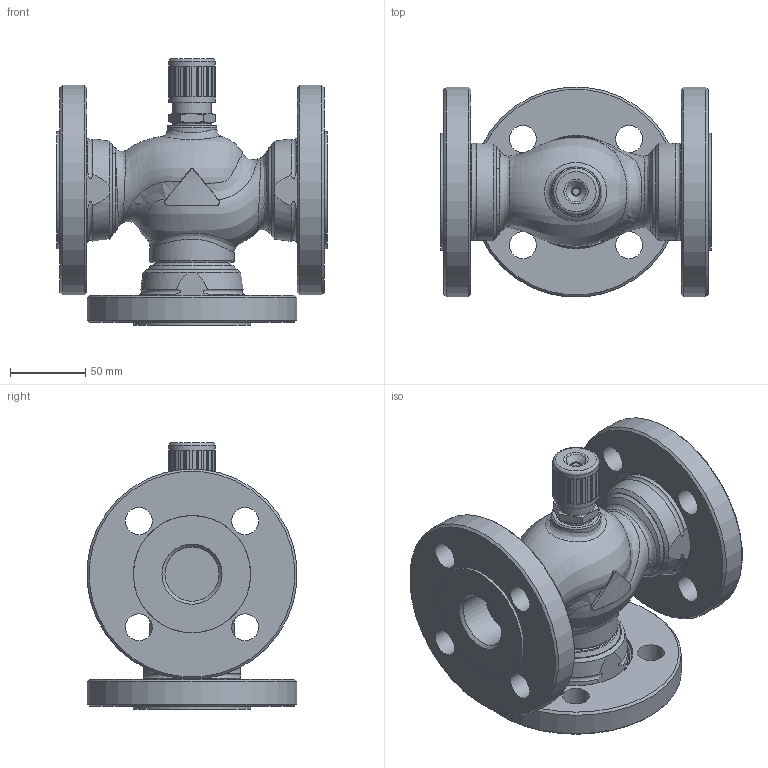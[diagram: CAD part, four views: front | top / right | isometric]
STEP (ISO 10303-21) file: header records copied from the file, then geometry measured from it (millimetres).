
FILE_DESCRIPTION(/* description */ (''),/* implementation_level */ '2;1');
FILE_NAME(/* name */ 'rv111r_dn32_3_F.stp',/* time_stamp */ '2012-02-21T13:47:00+01:00',/* author */ ('KLIMES'),/* organization */ ('LDM'),/* preprocessor_version */ 'ST-DEVELOPER v11',/* originating_system */ 'SIEMENS PLM Software NX 7.0',/* authorisation */ '');
FILE_SCHEMA (('CONFIG_CONTROL_DESIGN'));
Length unit declared in the file: millimetre
Products named in the file (1): klim56BEqbsd
Bounding box: 180 x 139.47 x 177.55 mm (x, y, z)
Volume: 1303845.6 mm3; surface area: 194849 mm2
Topology: 5 solids, 5 shells, 334 faces, 773 edges, 496 vertices
Faces by surface type: plane 151, cone 80, cylinder 54, bspline 25, torus 24
Full cylindrical faces by diameter (mm): 8 x1, 18 x12, 23.4 x1, 24.117 x1, 26 x1, 26.5 x1, 30.8 x1, 33 x1, 36 x3, 56 x1, 56.656 x3, 59.614 x3, 60 x3, 78 x3, 140 x3
Entity records: 14788 total; most frequent: CARTESIAN_POINT 7704, DIRECTION 1446, ORIENTED_EDGE 1294, EDGE_CURVE 647, AXIS2_PLACEMENT_3D 606, EDGE_LOOP 502, VERTEX_POINT 461, ADVANCED_FACE 334
